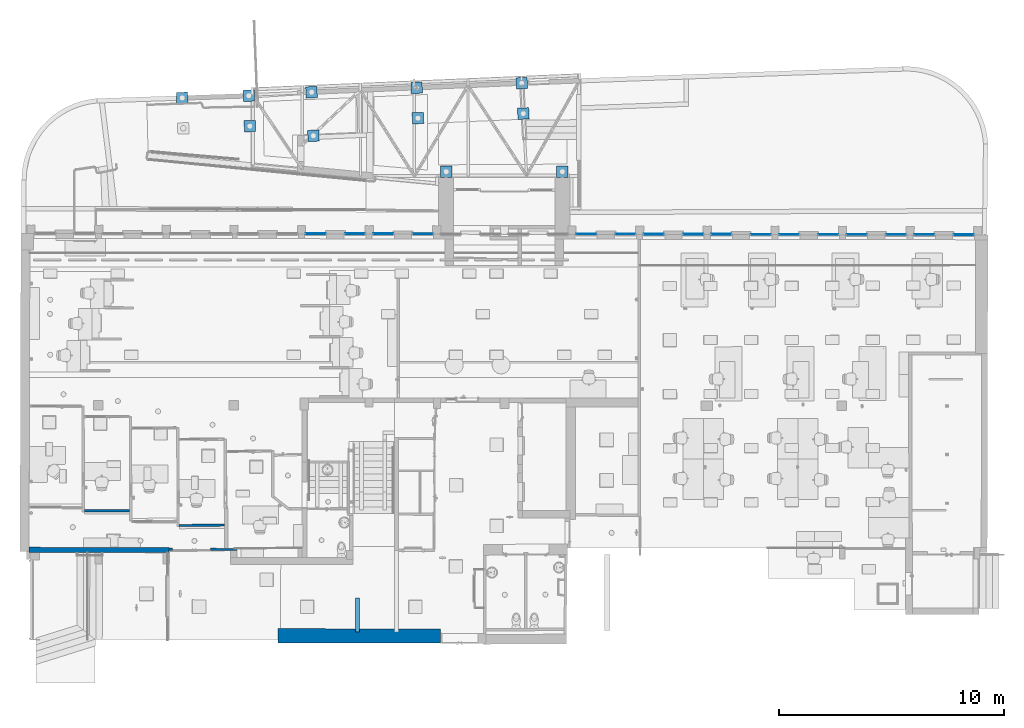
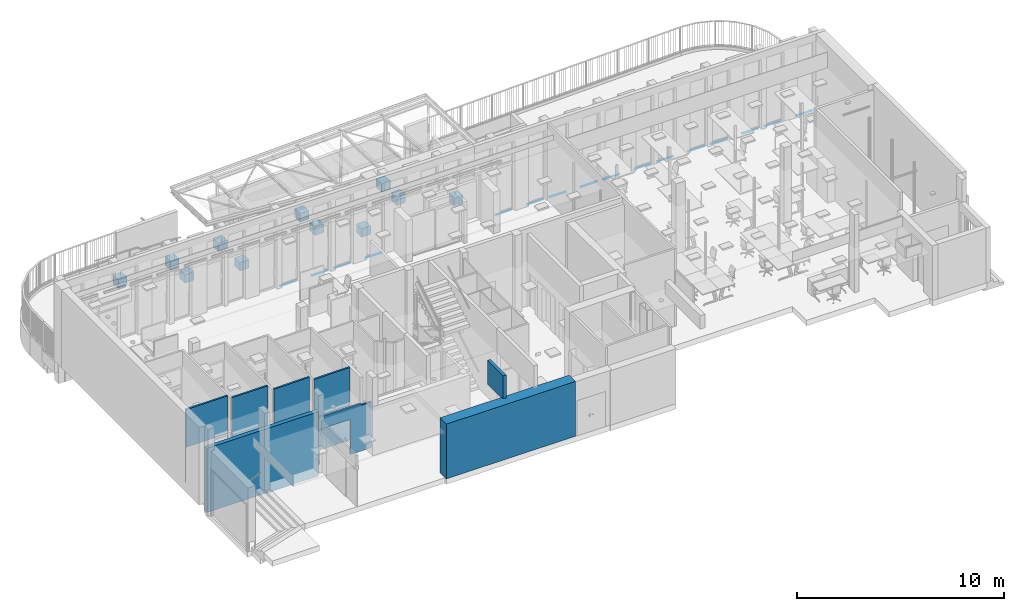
# One storey, part 25 of 128: 16 plates, 11 slabs, 8 walls, 3 openings, 16 elements without a shape of their own.
"""IFC2X3 building model written with IfcOpenShell, lengths in metres."""

import ifcopenshell
import ifcopenshell.guid

model = None  # the IFC model being written
_history = None  # IfcOwnerHistory: only IFC2X3 demands one
_inside = {}  # id of a spatial element -> (the spatial element, [elements in it])
_under = {}  # id of a project, library or spatial element -> (it, [spatial elements below it])
_declared = {}  # id of a project -> (the project, [libraries it declares])
_typed = {}  # id of a type object -> (the type object, [elements of that type])
_made_of = {}  # id of a material, layer set ... -> (it, [elements and type objects made of it])


def new_model(schema):
    """Start an empty IFC model of exactly this schema.

    Asked for "IFC4X3", IfcOpenShell would pick the latest addendum, in which some entities
    have other attributes; the version numbers below select the first issue.
    IFC2X3 requires an IfcOwnerHistory on every rooted entity: one is made here for all.
    """
    global model, _history
    if schema == "IFC4X3":
        model = ifcopenshell.file(schema_version=(4, 3, 0, 0))
    else:
        model = ifcopenshell.file(schema=schema)
    _inside.clear()
    _under.clear()
    _declared.clear()
    _typed.clear()
    _made_of.clear()
    _history = None
    if model.schema == "IFC2X3":
        org = make("IfcOrganization", Name="unknown")
        user = make(
            "IfcPersonAndOrganization",
            ThePerson=make("IfcPerson", FamilyName="unknown"),
            TheOrganization=org,
        )
        app = make(
            "IfcApplication",
            ApplicationDeveloper=org,
            Version="unknown",
            ApplicationFullName="unknown",
            ApplicationIdentifier="unknown",
        )
        _history = make(
            "IfcOwnerHistory",
            OwningUser=user,
            OwningApplication=app,
            ChangeAction="ADDED",
            CreationDate=0,
        )
    return model


def make(cls, **values):
    """One entity of the class cls with the attributes given. An attribute that is None is left unset."""
    return model.create_entity(
        cls, **{name: value for name, value in values.items() if value is not None}
    )


def entity(cls, *values):
    """Any entity or typed value of the class cls, its attributes in the order of the schema. None: left unset."""
    e = model.create_entity(cls)
    for i, value in enumerate(values):
        if value is not None:
            e[i] = value
    return e


def rooted(cls, **values):
    """An entity with a GlobalId (a new one), such as an element, a storey or a relation."""
    return make(cls, GlobalId=ifcopenshell.guid.new(), OwnerHistory=_history, **values)


def si_unit(unit_type, name, prefix=None):
    """IfcSIUnit, for example si_unit("LENGTHUNIT", "METRE", prefix="MILLI")."""
    return make("IfcSIUnit", UnitType=unit_type, Prefix=prefix, Name=name)


def converted_unit(unit_type, name, factor, base, dimensions=None, offset=None):
    """IfcConversionBasedUnit, such as the inch: factor (a typed value) times the base unit."""
    return make(
        "IfcConversionBasedUnit"
        if offset is None
        else "IfcConversionBasedUnitWithOffset",
        ConversionOffset=offset,
        Dimensions=None
        if dimensions is None
        else entity("IfcDimensionalExponents", *dimensions),
        UnitType=unit_type,
        Name=name,
        ConversionFactor=make(
            "IfcMeasureWithUnit", ValueComponent=factor, UnitComponent=base
        ),
    )


def derived_unit(unit_type, elements):
    """IfcDerivedUnit: a product of units, each with its exponent."""
    return make(
        "IfcDerivedUnit",
        Elements=[
            make("IfcDerivedUnitElement", Unit=unit, Exponent=power)
            for unit, power in elements
        ],
        UnitType=unit_type,
    )


def assignment(units):
    """IfcUnitAssignment: the units of a project."""
    return None if units is None else make("IfcUnitAssignment", Units=units)


def point(xyz):
    """IfcCartesianPoint."""
    return None if xyz is None else make("IfcCartesianPoint", Coordinates=xyz)


def direction(xyz):
    """IfcDirection."""
    return None if xyz is None else make("IfcDirection", DirectionRatios=xyz)


def frame(location, z_axis=None, x_axis=None):
    """IfcAxis2Placement3D, a coordinate frame: its origin and axes. An axis left out is left unset."""
    return make(
        "IfcAxis2Placement3D",
        Location=point(location),
        Axis=direction(z_axis),
        RefDirection=direction(x_axis),
    )


def frame_2d(location, x_axis=None):
    """IfcAxis2Placement2D, a coordinate frame in the plane: its origin and x axis."""
    return make(
        "IfcAxis2Placement2D", Location=point(location), RefDirection=direction(x_axis)
    )


def origin():
    """The frame at (0, 0, 0) with its axes left unset."""
    return frame((0.0, 0.0, 0.0))


def place(relative_to, where):
    """IfcLocalPlacement: puts the frame where relative to a parent placement (None: the world)."""
    return make(
        "IfcLocalPlacement", PlacementRelTo=relative_to, RelativePlacement=where
    )


def context(
    kind, dimensions, precision=None, world=None, true_north=None, identifier=None
):
    """IfcGeometricRepresentationContext, for example the 3D "Model" context."""
    return make(
        "IfcGeometricRepresentationContext",
        ContextIdentifier=identifier,
        ContextType=kind,
        CoordinateSpaceDimension=dimensions,
        Precision=precision,
        WorldCoordinateSystem=world,
        TrueNorth=true_north,
    )


def subcontext(parent, identifier, kind, view, scale=None):
    """IfcGeometricRepresentationSubContext, for example "Body" below "Model"."""
    return make(
        "IfcGeometricRepresentationSubContext",
        ContextIdentifier=identifier,
        ContextType=kind,
        ParentContext=parent,
        TargetScale=scale,
        TargetView=view,
    )


def project(units=None, contexts=None):
    """IfcProject with its units and contexts."""
    return rooted(
        "IfcProject",
        Name="project",
        RepresentationContexts=contexts,
        UnitsInContext=assignment(units),
    )


def spatial(cls, under=None, at=None, **own):
    """A site, building, storey or space (cls), placed at a placement, below another one or the project."""
    s = rooted(cls, ObjectPlacement=at, **own)
    if under is not None:
        _under.setdefault(under.id(), (under, []))[1].append(s)
    return s


def polyline(points):
    """IfcPolyline through the points."""
    return make("IfcPolyline", Points=[point(p) for p in points])


def profile(cls, at=None, kind="AREA", **sizes):
    """A parametric profile (cls). Its sizes go by their IFC names, for example OverallWidth=200.0."""
    return make(cls, ProfileType=kind, Position=at, **sizes)


def rectangle(**sizes):
    """IfcRectangleProfileDef."""
    return profile("IfcRectangleProfileDef", **sizes)


def outline(outer, holes=None, kind="AREA"):
    """IfcArbitraryClosedProfileDef: a profile drawn as a closed curve; with holes, ...WithVoids."""
    if holes is None:
        return make("IfcArbitraryClosedProfileDef", ProfileType=kind, OuterCurve=outer)
    return make(
        "IfcArbitraryProfileDefWithVoids",
        ProfileType=kind,
        OuterCurve=outer,
        InnerCurves=holes,
    )


def extrude(swept, where, along, depth):
    """IfcExtrudedAreaSolid: the profile swept, set in the frame where, extruded along a direction by depth."""
    return make(
        "IfcExtrudedAreaSolid",
        SweptArea=swept,
        Position=where,
        ExtrudedDirection=direction(along),
        Depth=depth,
    )


def clip(a, b, op="DIFFERENCE"):
    """IfcBooleanClippingResult: the solid a cut by the half space b."""
    return make(
        "IfcBooleanClippingResult", Operator=op, FirstOperand=a, SecondOperand=b
    )


def bounded_halfspace(plane, agree, where, boundary):
    """IfcPolygonalBoundedHalfSpace: a half space limited to a polygon's prism."""
    return make(
        "IfcPolygonalBoundedHalfSpace",
        BaseSurface=make("IfcPlane", Position=plane),
        AgreementFlag=agree,
        Position=where,
        PolygonalBoundary=boundary,
    )


def shape(context_of_items, identifier, shape_type, items):
    """IfcShapeRepresentation: the items that make up one representation, for example the "Body"."""
    return make(
        "IfcShapeRepresentation",
        ContextOfItems=context_of_items,
        RepresentationIdentifier=identifier,
        RepresentationType=shape_type,
        Items=items,
    )


def source(mapping_origin, context_of_items, identifier, shape_type, items):
    """IfcRepresentationMap: a shape defined once, which mapped items show again and again."""
    return make(
        "IfcRepresentationMap",
        MappingOrigin=mapping_origin,
        MappedRepresentation=shape(context_of_items, identifier, shape_type, items),
    )


def transform(
    local_origin,
    x_axis=None,
    y_axis=None,
    z_axis=None,
    scale=None,
    scale2=None,
    scale3=None,
    uniform=True,
):
    """IfcCartesianTransformationOperator3D, or its non-uniform kind. x_axis, y_axis, z_axis: its Axis1, 2, 3."""
    if uniform:
        return make(
            "IfcCartesianTransformationOperator3D",
            Axis1=direction(x_axis),
            Axis2=direction(y_axis),
            LocalOrigin=point(local_origin),
            Scale=scale,
            Axis3=direction(z_axis),
        )
    return make(
        "IfcCartesianTransformationOperator3DnonUniform",
        Axis1=direction(x_axis),
        Axis2=direction(y_axis),
        LocalOrigin=point(local_origin),
        Scale=scale,
        Axis3=direction(z_axis),
        Scale2=scale2,
        Scale3=scale3,
    )


def mapped(mapping_source, mapping_target):
    """IfcMappedItem: shows the shape of a source again, moved by a transform."""
    return make(
        "IfcMappedItem", MappingSource=mapping_source, MappingTarget=mapping_target
    )


def material(Name=None, Category=None):
    """IfcMaterial."""
    return make("IfcMaterial", Name=Name, Category=Category)


def layer(
    of_material, thickness, ventilated=None, Name=None, Category=None, Priority=None
):
    """IfcMaterialLayer: one layer of a wall or slab, of a material (None: an air gap)."""
    return make(
        "IfcMaterialLayer",
        Material=of_material,
        LayerThickness=thickness,
        IsVentilated=ventilated,
        Name=Name,
        Category=Category,
        Priority=Priority,
    )


def layer_set(layers, Name=None):
    """IfcMaterialLayerSet."""
    return make("IfcMaterialLayerSet", MaterialLayers=layers, LayerSetName=Name)


def layer_usage(for_layer_set, set_direction, sense, offset, extent=None):
    """IfcMaterialLayerSetUsage: how a layer set lies in its element."""
    return make(
        "IfcMaterialLayerSetUsage",
        ForLayerSet=for_layer_set,
        LayerSetDirection=set_direction,
        DirectionSense=sense,
        OffsetFromReferenceLine=offset,
        ReferenceExtent=extent,
    )


def made_of(thing, what):
    """Note that an element or type object is made of a material, layer set ...; save() writes the relation."""
    if what is not None:
        _made_of.setdefault(what.id(), (what, []))[1].append(thing)
    return thing


def type_object(cls, material=None, **own):
    """A type object (cls), such as IfcWallType, which elements share."""
    return made_of(rooted(cls, **own), material)


def type_shapes(of_type, sources):
    """Give a type object the sources (RepresentationMaps) that its elements show as mapped items."""
    of_type.RepresentationMaps = sources


def element(
    cls,
    number,
    at=None,
    inside=None,
    cuts=None,
    type_object=None,
    material=None,
    context=None,
    identifier="Body",
    shape_type=None,
    held_by="IfcProductDefinitionShape",
    body=None,
    shapes=None,
    **own,
):
    """One element of the class cls, such as IfcWall. Its Tag is "e" and its number.

    at: its placement. inside: the storey or other place that contains it. cuts: it is an
    opening in that element (IfcRelVoidsElement). A single representation is given by context,
    identifier, shape_type and body (its items); several are given by shapes. held_by: the class
    of the entity that holds the representations. save() writes the other relations.
    """
    e = rooted(cls, Tag="e%d" % number, ObjectPlacement=at, **own)
    if body is not None:
        shapes = [shape(context, identifier, shape_type, body)]
    if shapes is not None:
        e.Representation = make(held_by, Representations=shapes)
    if inside is not None:
        _inside.setdefault(inside.id(), (inside, []))[1].append(e)
    if cuts is not None:
        rooted(
            "IfcRelVoidsElement", RelatingBuildingElement=cuts, RelatedOpeningElement=e
        )
    if type_object is not None:
        _typed.setdefault(type_object.id(), (type_object, []))[1].append(e)
    return made_of(e, material)


def aggregate(whole, parts):
    """IfcRelAggregates: a whole, such as a stair, and the parts it consists of."""
    return rooted("IfcRelAggregates", RelatingObject=whole, RelatedObjects=parts)


def save(model, path):
    """Write the relations noted so far, then the file.

    IfcRelAggregates (storeys below a building ...), IfcRelContainedInSpatialStructure (elements
    in a storey), IfcRelDefinesByType, IfcRelAssociatesMaterial and IfcRelDeclares: one each for
    every whole, place, type object, material and project.
    """
    for whole, parts in _under.values():
        aggregate(whole, parts)
    for where, things in _inside.values():
        rooted(
            "IfcRelContainedInSpatialStructure",
            RelatedElements=things,
            RelatingStructure=where,
        )
    for kind, things in _typed.values():
        rooted("IfcRelDefinesByType", RelatedObjects=things, RelatingType=kind)
    for what, things in _made_of.values():
        rooted("IfcRelAssociatesMaterial", RelatedObjects=things, RelatingMaterial=what)
    for by, libraries in _declared.values():
        rooted("IfcRelDeclares", RelatingContext=by, RelatedDefinitions=libraries)
    model.write(path)


model = new_model("IFC2X3")

# Units and contexts
model_context = context("Model", 3, precision=1e-05, world=origin(), true_north=direction((6.123031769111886e-17, 1.0)))
body_context = subcontext(model_context, "Body", "Model", "MODEL_VIEW")
ifc_project = project(units=[si_unit("LENGTHUNIT", "METRE"), si_unit("AREAUNIT", "SQUARE_METRE"), converted_unit("PLANEANGLEUNIT", "DEGREE", entity("IfcPlaneAngleMeasure", 0.017453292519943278), si_unit("PLANEANGLEUNIT", "RADIAN"), dimensions=[0, 0, 0, 0, 0, 0, 0]), derived_unit("THERMALTRANSMITTANCEUNIT", [(si_unit("MASSUNIT", "GRAM", prefix="KILO"), 1), (si_unit("THERMODYNAMICTEMPERATUREUNIT", "KELVIN"), -1), (si_unit("TIMEUNIT", "SECOND"), -3)])], contexts=[model_context])

# Site, building, storey
site_placement = place(None, origin())
site = spatial("IfcSite", under=ifc_project, at=site_placement, Name="Default", CompositionType="ELEMENT")
building_placement = place(site_placement, origin())
building = spatial("IfcBuilding", under=site, at=building_placement, CompositionType="ELEMENT")
storey_placement = place(building_placement, origin())
storey = spatial("IfcBuildingStorey", under=building, at=storey_placement, Name="00_RDC CAF", CompositionType="ELEMENT", Elevation=2.4982504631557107e-13)

# Curtain wall, plate
curtain_wall_type = type_object("IfcCurtainWallType", Name="Mur-rideau:FRi.Ext.30mm Etages", PredefinedType="NOTDEFINED")
curtain_wall_1_placement = place(storey_placement, origin())
curtain_wall_1 = element("IfcCurtainWall", 1, at=curtain_wall_1_placement, inside=storey, type_object=curtain_wall_type, Name="Mur-rideau:FRi.Ext.30mm Etages", ObjectType="Mur-rideau:FRi.Ext.30mm Etages")
ifc_material_1 = material(Name="ARC - M.Ex - Bleu Foncé")
plate_type_1 = type_object("IfcPlateType", Name="Panneau système:F.Ri.P_Ext_Plein_30mm_Bleu foncé", PredefinedType="CURTAIN_PANEL", material=ifc_material_1)
shared_shape_1 = source(origin(), body_context, "Body", "SweptSolid", [
    extrude(rectangle(XDim=0.03, YDim=0.8800000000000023, at=frame_2d((0.0, 7.494005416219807e-16), x_axis=(1.0, 0.0))), frame((0.0, 0.0, 0.0), z_axis=(0.0, 0.0, 1.0), x_axis=(0.0, 1.0, 0.0)), (0.0, 0.0, 1.0), 0.01199999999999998),
])
type_shapes(plate_type_1, [shared_shape_1])
plate_1_placement = place(curtain_wall_1_placement, frame((31.37599304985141, 144.14482896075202, -0.062000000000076)))
plate_1 = element("IfcPlate", 2, at=plate_1_placement, type_object=plate_type_1, material=ifc_material_1, Name="Panneau système:F.Ri.P_Ext_Plein_30mm_Bleu foncé", ObjectType="Panneau système:F.Ri.P_Ext_Plein_30mm_Bleu foncé", context=body_context, shape_type="MappedRepresentation", body=[
    mapped(shared_shape_1, transform((0.0, 0.0, 0.0), scale=1.0)),
])
aggregate(curtain_wall_1, [plate_1])

curtain_wall_2_placement = place(storey_placement, origin())
curtain_wall_2 = element("IfcCurtainWall", 3, at=curtain_wall_2_placement, inside=storey, type_object=curtain_wall_type, Name="Mur-rideau:FRi.Ext.30mm Etages", ObjectType="Mur-rideau:FRi.Ext.30mm Etages")
plate_2_placement = place(curtain_wall_2_placement, frame((34.37598641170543, 144.14011088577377, -0.062000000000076)))
plate_2 = element("IfcPlate", 4, at=plate_2_placement, type_object=plate_type_1, material=ifc_material_1, Name="Panneau système:F.Ri.P_Ext_Plein_30mm_Bleu foncé", ObjectType="Panneau système:F.Ri.P_Ext_Plein_30mm_Bleu foncé", context=body_context, shape_type="MappedRepresentation", body=[
    mapped(shared_shape_1, transform((0.0, 0.0, 0.0), scale=1.0)),
])
aggregate(curtain_wall_2, [plate_2])

curtain_wall_3_placement = place(storey_placement, origin())
curtain_wall_3 = element("IfcCurtainWall", 5, at=curtain_wall_3_placement, inside=storey, type_object=curtain_wall_type, Name="Mur-rideau:FRi.Ext.30mm Etages", ObjectType="Mur-rideau:FRi.Ext.30mm Etages")
plate_3_placement = place(curtain_wall_3_placement, frame((37.37597977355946, 144.13539281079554, -0.062000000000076)))
plate_3 = element("IfcPlate", 6, at=plate_3_placement, type_object=plate_type_1, material=ifc_material_1, Name="Panneau système:F.Ri.P_Ext_Plein_30mm_Bleu foncé", ObjectType="Panneau système:F.Ri.P_Ext_Plein_30mm_Bleu foncé", context=body_context, shape_type="MappedRepresentation", body=[
    mapped(shared_shape_1, transform((0.0, 0.0, 0.0), scale=1.0)),
])
aggregate(curtain_wall_3, [plate_3])

curtain_wall_4_placement = place(storey_placement, origin())
curtain_wall_4 = element("IfcCurtainWall", 7, at=curtain_wall_4_placement, inside=storey, type_object=curtain_wall_type, Name="Mur-rideau:FRi.Ext.30mm Etages", ObjectType="Mur-rideau:FRi.Ext.30mm Etages")
plate_4_placement = place(curtain_wall_4_placement, frame((40.37597313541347, 144.13067473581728, -0.062000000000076)))
plate_4 = element("IfcPlate", 8, at=plate_4_placement, type_object=plate_type_1, material=ifc_material_1, Name="Panneau système:F.Ri.P_Ext_Plein_30mm_Bleu foncé", ObjectType="Panneau système:F.Ri.P_Ext_Plein_30mm_Bleu foncé", context=body_context, shape_type="MappedRepresentation", body=[
    mapped(shared_shape_1, transform((0.0, 0.0, 0.0), scale=1.0)),
])
aggregate(curtain_wall_4, [plate_4])

curtain_wall_5_placement = place(storey_placement, origin())
curtain_wall_5 = element("IfcCurtainWall", 9, at=curtain_wall_5_placement, inside=storey, type_object=curtain_wall_type, Name="Mur-rideau:FRi.Ext.30mm Etages", ObjectType="Mur-rideau:FRi.Ext.30mm Etages")
plate_5_placement = place(curtain_wall_5_placement, frame((43.37596649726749, 144.12595666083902, -0.062000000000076)))
plate_5 = element("IfcPlate", 10, at=plate_5_placement, type_object=plate_type_1, material=ifc_material_1, Name="Panneau système:F.Ri.P_Ext_Plein_30mm_Bleu foncé", ObjectType="Panneau système:F.Ri.P_Ext_Plein_30mm_Bleu foncé", context=body_context, shape_type="MappedRepresentation", body=[
    mapped(shared_shape_1, transform((0.0, 0.0, 0.0), scale=1.0)),
])
aggregate(curtain_wall_5, [plate_5])

curtain_wall_6_placement = place(storey_placement, origin())
curtain_wall_6 = element("IfcCurtainWall", 11, at=curtain_wall_6_placement, inside=storey, type_object=curtain_wall_type, Name="Mur-rideau:FRi.Ext.30mm Etages", ObjectType="Mur-rideau:FRi.Ext.30mm Etages")
plate_6_placement = place(curtain_wall_6_placement, frame((46.37595985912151, 144.12123858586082, -0.062000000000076)))
plate_6 = element("IfcPlate", 12, at=plate_6_placement, type_object=plate_type_1, material=ifc_material_1, Name="Panneau système:F.Ri.P_Ext_Plein_30mm_Bleu foncé", ObjectType="Panneau système:F.Ri.P_Ext_Plein_30mm_Bleu foncé", context=body_context, shape_type="MappedRepresentation", body=[
    mapped(shared_shape_1, transform((0.0, 0.0, 0.0), scale=1.0)),
])
aggregate(curtain_wall_6, [plate_6])

curtain_wall_7_placement = place(storey_placement, origin())
curtain_wall_7 = element("IfcCurtainWall", 13, at=curtain_wall_7_placement, inside=storey, type_object=curtain_wall_type, Name="Mur-rideau:FRi.Ext.30mm Etages", ObjectType="Mur-rideau:FRi.Ext.30mm Etages")
plate_7_placement = place(curtain_wall_7_placement, frame((19.37601960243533, 144.16370126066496, -0.062000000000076)))
plate_7 = element("IfcPlate", 14, at=plate_7_placement, type_object=plate_type_1, material=ifc_material_1, Name="Panneau système:F.Ri.P_Ext_Plein_30mm_Bleu foncé", ObjectType="Panneau système:F.Ri.P_Ext_Plein_30mm_Bleu foncé", context=body_context, shape_type="MappedRepresentation", body=[
    mapped(shared_shape_1, transform((0.0, 0.0, 0.0), scale=1.0)),
])
aggregate(curtain_wall_7, [plate_7])

curtain_wall_8_placement = place(storey_placement, origin())
curtain_wall_8 = element("IfcCurtainWall", 15, at=curtain_wall_8_placement, inside=storey, type_object=curtain_wall_type, Name="Mur-rideau:FRi.Ext.30mm Etages", ObjectType="Mur-rideau:FRi.Ext.30mm Etages")
plate_8_placement = place(curtain_wall_8_placement, frame((22.37601296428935, 144.15898318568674, -0.062000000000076)))
plate_8 = element("IfcPlate", 16, at=plate_8_placement, type_object=plate_type_1, material=ifc_material_1, Name="Panneau système:F.Ri.P_Ext_Plein_30mm_Bleu foncé", ObjectType="Panneau système:F.Ri.P_Ext_Plein_30mm_Bleu foncé", context=body_context, shape_type="MappedRepresentation", body=[
    mapped(shared_shape_1, transform((0.0, 0.0, 0.0), scale=1.0)),
])
aggregate(curtain_wall_8, [plate_8])

curtain_wall_9_placement = place(storey_placement, origin())
curtain_wall_9 = element("IfcCurtainWall", 17, at=curtain_wall_9_placement, inside=storey, type_object=curtain_wall_type, Name="Mur-rideau:FRi.Ext.30mm Etages", ObjectType="Mur-rideau:FRi.Ext.30mm Etages")
plate_type_2 = type_object("IfcPlateType", Name="Panneau système:F.Ri.P_Ext_Plein_30mm_Bleu foncé", PredefinedType="CURTAIN_PANEL", material=ifc_material_1)
shared_shape_2 = source(origin(), body_context, "Body", "SweptSolid", [
    extrude(rectangle(XDim=0.03, YDim=0.8800000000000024, at=frame_2d((0.0, 6.661338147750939e-16), x_axis=(1.0, 0.0))), frame((0.0, 0.0, 0.0), z_axis=(0.0, 0.0, 1.0), x_axis=(0.0, 1.0, 0.0)), (0.0, 0.0, 1.0), 0.01199999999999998),
])
type_shapes(plate_type_2, [shared_shape_2])
plate_9_placement = place(curtain_wall_9_placement, frame((33.12233913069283, 144.14208249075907, -0.062000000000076), z_axis=(0.0, 0.0, 1.0), x_axis=(-1.0, 0.0, 0.0)))
plate_9 = element("IfcPlate", 18, at=plate_9_placement, type_object=plate_type_2, material=ifc_material_1, Name="Panneau système:F.Ri.P_Ext_Plein_30mm_Bleu foncé", ObjectType="Panneau système:F.Ri.P_Ext_Plein_30mm_Bleu foncé", context=body_context, shape_type="MappedRepresentation", body=[
    mapped(shared_shape_2, transform((0.0, 0.0, 0.0), scale=1.0)),
])
aggregate(curtain_wall_9, [plate_9])

curtain_wall_10_placement = place(storey_placement, origin())
curtain_wall_10 = element("IfcCurtainWall", 19, at=curtain_wall_10_placement, inside=storey, type_object=curtain_wall_type, Name="Mur-rideau:FRi.Ext.30mm Etages", ObjectType="Mur-rideau:FRi.Ext.30mm Etages")
plate_10_placement = place(curtain_wall_10_placement, frame((36.122332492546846, 144.13736441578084, -0.062000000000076), z_axis=(0.0, 0.0, 1.0), x_axis=(-1.0, 0.0, 0.0)))
plate_10 = element("IfcPlate", 20, at=plate_10_placement, type_object=plate_type_2, material=ifc_material_1, Name="Panneau système:F.Ri.P_Ext_Plein_30mm_Bleu foncé", ObjectType="Panneau système:F.Ri.P_Ext_Plein_30mm_Bleu foncé", context=body_context, shape_type="MappedRepresentation", body=[
    mapped(shared_shape_2, transform((0.0, 0.0, 0.0), scale=1.0)),
])
aggregate(curtain_wall_10, [plate_10])

curtain_wall_11_placement = place(storey_placement, origin())
curtain_wall_11 = element("IfcCurtainWall", 21, at=curtain_wall_11_placement, inside=storey, type_object=curtain_wall_type, Name="Mur-rideau:FRi.Ext.30mm Etages", ObjectType="Mur-rideau:FRi.Ext.30mm Etages")
plate_11_placement = place(curtain_wall_11_placement, frame((39.12232585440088, 144.1326463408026, -0.062000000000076), z_axis=(0.0, 0.0, 1.0), x_axis=(-1.0, 0.0, 0.0)))
plate_11 = element("IfcPlate", 22, at=plate_11_placement, type_object=plate_type_2, material=ifc_material_1, Name="Panneau système:F.Ri.P_Ext_Plein_30mm_Bleu foncé", ObjectType="Panneau système:F.Ri.P_Ext_Plein_30mm_Bleu foncé", context=body_context, shape_type="MappedRepresentation", body=[
    mapped(shared_shape_2, transform((0.0, 0.0, 0.0), scale=1.0)),
])
aggregate(curtain_wall_11, [plate_11])

curtain_wall_12_placement = place(storey_placement, origin())
curtain_wall_12 = element("IfcCurtainWall", 23, at=curtain_wall_12_placement, inside=storey, type_object=curtain_wall_type, Name="Mur-rideau:FRi.Ext.30mm Etages", ObjectType="Mur-rideau:FRi.Ext.30mm Etages")
plate_12_placement = place(curtain_wall_12_placement, frame((42.12231921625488, 144.12792826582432, -0.062000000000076), z_axis=(0.0, 0.0, 1.0), x_axis=(-1.0, 0.0, 0.0)))
plate_12 = element("IfcPlate", 24, at=plate_12_placement, type_object=plate_type_2, material=ifc_material_1, Name="Panneau système:F.Ri.P_Ext_Plein_30mm_Bleu foncé", ObjectType="Panneau système:F.Ri.P_Ext_Plein_30mm_Bleu foncé", context=body_context, shape_type="MappedRepresentation", body=[
    mapped(shared_shape_2, transform((0.0, 0.0, 0.0), scale=1.0)),
])
aggregate(curtain_wall_12, [plate_12])

curtain_wall_13_placement = place(storey_placement, origin())
curtain_wall_13 = element("IfcCurtainWall", 25, at=curtain_wall_13_placement, inside=storey, type_object=curtain_wall_type, Name="Mur-rideau:FRi.Ext.30mm Etages", ObjectType="Mur-rideau:FRi.Ext.30mm Etages")
plate_13_placement = place(curtain_wall_13_placement, frame((45.122312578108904, 144.1232101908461, -0.062000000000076), z_axis=(0.0, 0.0, 1.0), x_axis=(-1.0, 0.0, 0.0)))
plate_13 = element("IfcPlate", 26, at=plate_13_placement, type_object=plate_type_2, material=ifc_material_1, Name="Panneau système:F.Ri.P_Ext_Plein_30mm_Bleu foncé", ObjectType="Panneau système:F.Ri.P_Ext_Plein_30mm_Bleu foncé", context=body_context, shape_type="MappedRepresentation", body=[
    mapped(shared_shape_2, transform((0.0, 0.0, 0.0), scale=1.0)),
])
aggregate(curtain_wall_13, [plate_13])

curtain_wall_14_placement = place(storey_placement, origin())
curtain_wall_14 = element("IfcCurtainWall", 27, at=curtain_wall_14_placement, inside=storey, type_object=curtain_wall_type, Name="Mur-rideau:FRi.Ext.30mm Etages", ObjectType="Mur-rideau:FRi.Ext.30mm Etages")
plate_14_placement = place(curtain_wall_14_placement, frame((48.12230593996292, 144.11849211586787, -0.062000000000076), z_axis=(0.0, 0.0, 1.0), x_axis=(-1.0, 0.0, 0.0)))
plate_14 = element("IfcPlate", 28, at=plate_14_placement, type_object=plate_type_2, material=ifc_material_1, Name="Panneau système:F.Ri.P_Ext_Plein_30mm_Bleu foncé", ObjectType="Panneau système:F.Ri.P_Ext_Plein_30mm_Bleu foncé", context=body_context, shape_type="MappedRepresentation", body=[
    mapped(shared_shape_2, transform((0.0, 0.0, 0.0), scale=1.0)),
])
aggregate(curtain_wall_14, [plate_14])

curtain_wall_15_placement = place(storey_placement, origin())
curtain_wall_15 = element("IfcCurtainWall", 29, at=curtain_wall_15_placement, inside=storey, type_object=curtain_wall_type, Name="Mur-rideau:FRi.Ext.30mm Etages", ObjectType="Mur-rideau:FRi.Ext.30mm Etages")
plate_15_placement = place(curtain_wall_15_placement, frame((21.122365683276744, 144.160954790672, -0.062000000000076), z_axis=(0.0, 0.0, 1.0), x_axis=(-1.0, 0.0, 0.0)))
plate_15 = element("IfcPlate", 30, at=plate_15_placement, type_object=plate_type_2, material=ifc_material_1, Name="Panneau système:F.Ri.P_Ext_Plein_30mm_Bleu foncé", ObjectType="Panneau système:F.Ri.P_Ext_Plein_30mm_Bleu foncé", context=body_context, shape_type="MappedRepresentation", body=[
    mapped(shared_shape_2, transform((0.0, 0.0, 0.0), scale=1.0)),
])
aggregate(curtain_wall_15, [plate_15])

curtain_wall_16_placement = place(storey_placement, origin())
curtain_wall_16 = element("IfcCurtainWall", 31, at=curtain_wall_16_placement, inside=storey, type_object=curtain_wall_type, Name="Mur-rideau:FRi.Ext.30mm Etages", ObjectType="Mur-rideau:FRi.Ext.30mm Etages")
plate_16_placement = place(curtain_wall_16_placement, frame((24.122359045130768, 144.1562367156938, -0.062000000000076), z_axis=(0.0, 0.0, 1.0), x_axis=(-1.0, 0.0, 0.0)))
plate_16 = element("IfcPlate", 32, at=plate_16_placement, type_object=plate_type_2, material=ifc_material_1, Name="Panneau système:F.Ri.P_Ext_Plein_30mm_Bleu foncé", ObjectType="Panneau système:F.Ri.P_Ext_Plein_30mm_Bleu foncé", context=body_context, shape_type="MappedRepresentation", body=[
    mapped(shared_shape_2, transform((0.0, 0.0, 0.0), scale=1.0)),
])
aggregate(curtain_wall_16, [plate_16])

# Slabs
ifc_material_2 = material(Name="Béton - Béton coulé sur place")
slab_type = type_object("IfcSlabType", Name="Casque de battage-1 poteau:TP 500x500x500 - Pieux 250", PredefinedType="BASESLAB", material=ifc_material_2)
slab_1_placement = place(storey_placement, origin())
element("IfcSlab", 33, at=slab_1_placement, inside=storey, type_object=slab_type, Name="Casque de battage-1 poteau:TP 500x500x500 - Pieux 250", ObjectType="Casque de battage-1 poteau:TP 500x500x500 - Pieux 250", PredefinedType="BASESLAB", context=body_context, shape_type="SweptSolid", body=[
    extrude(rectangle(XDim=0.49999999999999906, YDim=0.5000000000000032, at=frame_2d((9.159339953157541e-16, 1.7305601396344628e-14), x_axis=(1.0, 0.0))), frame((28.59051658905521, 149.4910029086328, -1.6960293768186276), z_axis=(0.0, 0.0, 1.0), x_axis=(-0.9986305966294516, -0.052315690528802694, 0.0)), (0.0, 0.0, 1.0), 0.4999999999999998),
])
slab_2_placement = place(storey_placement, origin())
element("IfcSlab", 34, at=slab_2_placement, inside=storey, type_object=slab_type, Name="Casque de battage-1 poteau:TP 500x500x500 - Pieux 250", ObjectType="Casque de battage-1 poteau:TP 500x500x500 - Pieux 250", PredefinedType="BASESLAB", context=body_context, shape_type="SweptSolid", body=[
    extrude(rectangle(XDim=0.499999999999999, YDim=0.5000000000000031, at=frame_2d((4.3298697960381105e-15, -2.498001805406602e-16), x_axis=(1.0, 0.0))), frame((28.519886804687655, 150.83922297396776, -1.6960293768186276), z_axis=(0.0, 0.0, 1.0), x_axis=(-0.9986305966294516, -0.052315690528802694, 0.0)), (0.0, 0.0, 1.0), 0.4999999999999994),
])
slab_3_placement = place(storey_placement, origin())
element("IfcSlab", 35, at=slab_3_placement, inside=storey, type_object=slab_type, Name="Casque de battage-1 poteau:TP 500x500x500 - Pieux 250", ObjectType="Casque de battage-1 poteau:TP 500x500x500 - Pieux 250", PredefinedType="BASESLAB", context=body_context, shape_type="SweptSolid", body=[
    extrude(rectangle(XDim=0.499999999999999, YDim=0.5000000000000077, at=frame_2d((-2.1788126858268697e-15, 8.673617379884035e-15), x_axis=(1.0, 0.0))), frame((30.3207250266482, 146.91596943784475, -0.7999999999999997), z_axis=(0.0, 0.0, 1.0), x_axis=(-1.0, 0.0, 0.0)), (0.0, 0.0, 1.0), 0.4999999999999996),
])
slab_4_placement = place(storey_placement, origin())
element("IfcSlab", 36, at=slab_4_placement, inside=storey, type_object=slab_type, Name="Casque de battage-1 poteau:TP 500x500x500 - Pieux 250", ObjectType="Casque de battage-1 poteau:TP 500x500x500 - Pieux 250", PredefinedType="BASESLAB", context=body_context, shape_type="SweptSolid", body=[
    extrude(rectangle(XDim=0.49999999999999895, YDim=0.5000000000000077, at=frame_2d((2.1788126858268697e-15, 8.673617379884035e-15), x_axis=(1.0, 0.0))), frame((25.16802002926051, 146.91596943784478, -0.7999999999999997), z_axis=(0.0, 0.0, 1.0), x_axis=(-1.0, 0.0, 0.0)), (0.0, 0.0, 1.0), 0.4999999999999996),
])
slab_5_placement = place(storey_placement, origin())
element("IfcSlab", 37, at=slab_5_placement, inside=storey, type_object=slab_type, Name="Casque de battage-1 poteau:TP 500x500x500 - Pieux 250", ObjectType="Casque de battage-1 poteau:TP 500x500x500 - Pieux 250", PredefinedType="BASESLAB", context=body_context, shape_type="SweptSolid", body=[
    extrude(rectangle(XDim=0.5000000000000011, YDim=0.5000000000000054, at=frame_2d((-2.1510571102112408e-15, 1.1102230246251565e-16), x_axis=(1.0, 0.0))), frame((23.915028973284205, 149.2893019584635, -1.6960293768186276), z_axis=(0.0, 0.0, 1.0), x_axis=(-0.9990706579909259, -0.043102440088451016, 0.0)), (0.0, 0.0, 1.0), 0.4999999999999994),
])
slab_6_placement = place(storey_placement, origin())
element("IfcSlab", 38, at=slab_6_placement, inside=storey, type_object=slab_type, Name="Casque de battage-1 poteau:TP 500x500x500 - Pieux 250", ObjectType="Casque de battage-1 poteau:TP 500x500x500 - Pieux 250", PredefinedType="BASESLAB", context=body_context, shape_type="SweptSolid", body=[
    extrude(rectangle(XDim=0.5000000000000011, YDim=0.5000000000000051, at=frame_2d((-1.0824674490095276e-15, 2.7755575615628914e-17), x_axis=(1.0, 0.0))), frame((19.193791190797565, 150.4368715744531, -1.6960293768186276), z_axis=(0.0, 0.0, 1.0), x_axis=(-0.9990706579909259, -0.043102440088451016, 0.0)), (0.0, 0.0, 1.0), 0.4999999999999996),
])
slab_7_placement = place(storey_placement, origin())
element("IfcSlab", 39, at=slab_7_placement, inside=storey, type_object=slab_type, Name="Casque de battage-1 poteau:TP 500x500x500 - Pieux 250", ObjectType="Casque de battage-1 poteau:TP 500x500x500 - Pieux 250", PredefinedType="BASESLAB", context=body_context, shape_type="SweptSolid", body=[
    extrude(rectangle(XDim=0.5000000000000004, YDim=0.5000000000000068, at=frame_2d((2.1649348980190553e-15, -1.1102230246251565e-16), x_axis=(1.0, 0.0))), frame((13.457110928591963, 150.18491970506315, -1.6960293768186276), z_axis=(0.0, 0.0, 1.0), x_axis=(-0.9994329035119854, -0.03367300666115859, 0.0)), (0.0, 0.0, 1.0), 0.4999999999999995),
])
slab_8_placement = place(storey_placement, origin())
element("IfcSlab", 40, at=slab_8_placement, inside=storey, type_object=slab_type, Name="Casque de battage-1 poteau:TP 500x500x500 - Pieux 250", ObjectType="Casque de battage-1 poteau:TP 500x500x500 - Pieux 250", PredefinedType="BASESLAB", context=body_context, shape_type="SweptSolid", body=[
    extrude(rectangle(XDim=0.4999999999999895, YDim=0.5000000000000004, at=frame_2d((2.7755575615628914e-17, 1.0824674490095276e-15), x_axis=(1.0, 0.0))), frame((16.458270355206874, 148.93526909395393, -1.6839951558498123), z_axis=(0.0, 0.0, 1.0), x_axis=(0.03367300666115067, -0.9994329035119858, 0.0)), (0.0, 0.0, 1.0), 0.4999999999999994),
])
slab_9_placement = place(storey_placement, origin())
element("IfcSlab", 41, at=slab_9_placement, inside=storey, type_object=slab_type, Name="Casque de battage-1 poteau:TP 500x500x500 - Pieux 250", ObjectType="Casque de battage-1 poteau:TP 500x500x500 - Pieux 250", PredefinedType="BASESLAB", context=body_context, shape_type="SweptSolid", body=[
    extrude(rectangle(XDim=0.49999999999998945, YDim=0.5000000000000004, at=frame_2d((-2.7755575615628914e-17, -1.0824674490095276e-15), x_axis=(1.0, 0.0))), frame((16.412811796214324, 150.2845035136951, -1.6960293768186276), z_axis=(0.0, 0.0, 1.0), x_axis=(0.03367300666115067, -0.9994329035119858, 0.0)), (0.0, 0.0, 1.0), 0.4999999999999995),
])
slab_10_placement = place(storey_placement, origin())
element("IfcSlab", 42, at=slab_10_placement, inside=storey, type_object=slab_type, Name="Casque de battage-1 poteau:TP 500x500x500 - Pieux 250", ObjectType="Casque de battage-1 poteau:TP 500x500x500 - Pieux 250", PredefinedType="BASESLAB", context=body_context, shape_type="SweptSolid", body=[
    extrude(rectangle(XDim=0.5000000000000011, YDim=0.5000000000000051, at=frame_2d((-2.1649348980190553e-15, 8.326672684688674e-17), x_axis=(1.0, 0.0))), frame((23.856848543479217, 150.63786505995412, -1.6960293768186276), z_axis=(0.0, 0.0, 1.0), x_axis=(-0.9990706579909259, -0.043102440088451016, 0.0)), (0.0, 0.0, 1.0), 0.4999999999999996),
])
slab_11_placement = place(storey_placement, origin())
element("IfcSlab", 43, at=slab_11_placement, inside=storey, type_object=slab_type, Name="Casque de battage-1 poteau:TP 500x500x500 - Pieux 250", ObjectType="Casque de battage-1 poteau:TP 500x500x500 - Pieux 250", PredefinedType="BASESLAB", context=body_context, shape_type="SweptSolid", body=[
    extrude(rectangle(XDim=0.5000000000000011, YDim=0.5000000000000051, at=frame_2d((1.0824674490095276e-15, -2.7755575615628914e-17), x_axis=(1.0, 0.0))), frame((19.277328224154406, 148.50706814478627, -1.6960293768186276), z_axis=(0.0, 0.0, 1.0), x_axis=(-0.9990706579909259, -0.043102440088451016, 0.0)), (0.0, 0.0, 1.0), 0.4999999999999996),
])

# Wall, opening
ifc_material_3 = material(Name="ARC - Cloison")
ifc_layer_1 = layer(ifc_material_3, 0.1)
ifc_layer_set_1 = layer_set([ifc_layer_1], Name="Mur de base:Cl_Platre_100mm")
ifc_layer_usage_1 = layer_usage(ifc_layer_set_1, "AXIS2", "NEGATIVE", 0.05)
wall_type_1 = type_object("IfcWallType", Name="Mur de base:Cl_Platre_100mm", PredefinedType="STANDARD", material=ifc_layer_set_1)
wall_1_placement = place(storey_placement, frame((12.877483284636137, 130.1637382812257, 0.0), z_axis=(0.0, 0.0, 1.0), x_axis=(0.9999964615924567, -0.0026602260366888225, 0.0)))
wall_1 = element("IfcWallStandardCase", 44, at=wall_1_placement, inside=storey, type_object=wall_type_1, material=ifc_layer_usage_1, Name="Mur de base:Cl_Platre_100mm", ObjectType="Mur de base:Cl_Platre_100mm", context=body_context, shape_type="Clipping", body=[
    clip(clip(clip(clip(clip(extrude(rectangle(XDim=0.10000000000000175, YDim=3.017920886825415, at=frame_2d((1.5089604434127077, -9.46465128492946e-15), x_axis=(0.0, 1.0))), origin(), (0.0, 0.0, 1.0), 2.786642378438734), bounded_halfspace(frame((2.979851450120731, -0.05000000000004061, 2.700000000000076), z_axis=(0.0, 0.0, -1.0), x_axis=(-0.9999964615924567, -0.002660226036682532, 0.0)), True, frame((2.979851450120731, -0.05000000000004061, 2.700000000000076)), polyline([(0.0, 0.0), (0.03806943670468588, 0.0), (0.0380694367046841, 0.10000000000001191), (-0.0002660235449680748, 0.10000000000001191), (0.0, 0.0)]))), bounded_halfspace(frame((0.020280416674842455, -0.05000000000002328, 2.777642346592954), z_axis=(-0.00023845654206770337, 0.08963738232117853, -0.9959744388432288), x_axis=(0.002649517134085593, -0.9959709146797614, -0.0896376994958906)), True, frame((0.020280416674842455, -0.05000000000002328, 2.777642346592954)), polyline([(0.0, 0.0), (2.429058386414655, 0.0), (2.428530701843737, 0.10000000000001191), (-0.0002660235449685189, 0.0999999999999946), (0.0, 0.0)]))), bounded_halfspace(frame((2.979851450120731, -0.05000000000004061, 2.700000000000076), z_axis=(0.0, 0.0, -1.0), x_axis=(-0.9999964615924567, -0.002660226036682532, 0.0)), True, frame((2.979851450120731, -0.05000000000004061, 2.700000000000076)), polyline([(0.0, 0.0), (0.03806943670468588, 0.0), (0.0380694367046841, 0.10000000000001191), (-0.0002660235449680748, 0.10000000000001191), (0.0, 0.0)]))), bounded_halfspace(frame((2.449338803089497, -0.05000000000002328, 2.6999999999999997), z_axis=(0.0, 0.0, 1.0), x_axis=(0.0, 1.0, 0.0)), False, frame((2.449338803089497, -0.05000000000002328, 2.6999999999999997)), polyline([(0.0, 0.0), (0.5305126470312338, 0.0), (0.5302466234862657, 0.0999999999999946), (-0.0005276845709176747, 0.10000000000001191), (0.0, 0.0)]))), bounded_halfspace(frame((0.0, 0.04999999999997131, 2.7), z_axis=(0.0, 0.0, 1.0), x_axis=(0.0, 1.0, 0.0)), False, frame((0.0, 0.04999999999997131, 2.7)), polyline([(0.0, 0.0), (0.0, -0.0999999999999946), (0.02028041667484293, -0.0999999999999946), (0.020014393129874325, 0.0), (0.0, 0.0)]))),
])
opening_1_placement = place(wall_1_placement, frame((1.8424932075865, 0.050000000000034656, 0.0)))
element("IfcOpeningElement", 45, at=opening_1_placement, cuts=wall_1, Name="P_Tunnel_Tierce:P_Int_Tierce_Pleine_1620x2040mm:1", ObjectType="Opening", context=body_context, shape_type="SweptSolid", body=[
    extrude(rectangle(XDim=2.0749999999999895, YDim=1.6899999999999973, at=frame_2d((1.0374999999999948, 0.845), x_axis=(1.0, 0.0))), frame((0.0, 0.0, 0.0), z_axis=(0.0, -1.0, 0.0), x_axis=(0.0, 0.0, 1.0)), (0.0, 0.0, 1.0), 0.1),
])

ifc_layer_usage_2 = layer_usage(ifc_layer_set_1, "AXIS2", "NEGATIVE", 0.05)
wall_2_placement = place(storey_placement, frame((6.666494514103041, 132.11264719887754, 0.0)))
wall_2 = element("IfcWallStandardCase", 46, at=wall_2_placement, inside=storey, type_object=wall_type_1, material=ifc_layer_usage_2, Name="Mur de base:Cl_Platre_100mm", ObjectType="Mur de base:Cl_Platre_100mm", context=body_context, shape_type="SweptSolid", body=[
    extrude(outline(polyline([(0.0, -0.04999999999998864), (2.3540878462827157, -0.04999999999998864), (2.3538145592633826, 0.050000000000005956), (0.0002898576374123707, 0.050000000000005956), (0.0, -0.04999999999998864)])), origin(), (0.0, 0.0, 1.0), 4.278),
])
opening_2_placement = place(wall_2_placement, origin())
element("IfcOpeningElement", 47, at=opening_2_placement, cuts=wall_2, Name="Mur de base:Cl_Platre_100mm", ObjectType="Opening", context=body_context, shape_type="SweptSolid", body=[
    extrude(rectangle(XDim=2.052499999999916, YDim=2.3528138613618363, at=frame_2d((0.0, 5.551115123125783e-16), x_axis=(1.0, 0.0))), frame((1.176864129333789, -0.20239999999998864, 1.026249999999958), z_axis=(0.0, 1.0, 0.0), x_axis=(0.0, 0.0, 1.0)), (0.0, 0.0, 1.0), 0.4047999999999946),
])

# Wall
ifc_layer_usage_3 = layer_usage(ifc_layer_set_1, "AXIS2", "NEGATIVE", 0.05)
wall_3_placement = place(storey_placement, frame((9.120862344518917, 131.87598327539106, 0.0), z_axis=(0.0, 0.0, 1.0), x_axis=(0.9999982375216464, -0.0018774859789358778, 0.0)))
element("IfcWallStandardCase", 48, at=wall_3_placement, inside=storey, type_object=wall_type_1, material=ifc_layer_usage_3, Name="Mur de base:Cl_Platre_100mm", ObjectType="Mur de base:Cl_Platre_100mm", context=body_context, shape_type="SweptSolid", body=[
    extrude(outline(polyline([(2.001968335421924, -0.04999999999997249), (2.001507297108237, 0.05000000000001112), (0.0, 0.05000000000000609), (0.0004610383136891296, -0.04999999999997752), (2.001968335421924, -0.04999999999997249)])), origin(), (0.0, 0.0, 1.0), 4.278),
])

# Wall, opening
ifc_layer_usage_4 = layer_usage(ifc_layer_set_1, "AXIS2", "NEGATIVE", 0.05)
wall_4_placement = place(storey_placement, frame((11.223327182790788, 131.4761831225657, 0.0), z_axis=(0.0, 0.0, 1.0), x_axis=(0.9999522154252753, 0.009775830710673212, 0.0)))
wall_4 = element("IfcWallStandardCase", 49, at=wall_4_placement, inside=storey, type_object=wall_type_1, material=ifc_layer_usage_4, Name="Mur de base:Cl_Platre_100mm", ObjectType="Mur de base:Cl_Platre_100mm", context=body_context, shape_type="SweptSolid", body=[
    extrude(outline(polyline([(0.0, -0.050000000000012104), (2.0003776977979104, -0.05000000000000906), (2.0010106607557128, 0.049999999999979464), (0.0007043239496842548, 0.049999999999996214), (0.0, -0.050000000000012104)])), origin(), (0.0, 0.0, 1.0), 4.278),
])
opening_3_placement = place(wall_4_placement, origin())
element("IfcOpeningElement", 50, at=opening_3_placement, cuts=wall_4, Name="Mur de base:Cl_Platre_100mm", ObjectType="Opening", context=body_context, shape_type="SweptSolid", body=[
    extrude(rectangle(XDim=2.052499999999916, YDim=2.0003428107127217, at=frame_2d((0.0, 1.2212453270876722e-15), x_axis=(1.0, 0.0))), frame((1.0005234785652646, -0.20240000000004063, 1.026249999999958), z_axis=(0.0, 1.0, 0.0), x_axis=(0.0, 0.0, 1.0)), (0.0, 0.0, 1.0), 0.40480000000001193),
])

# Walls
ifc_layer_usage_5 = layer_usage(ifc_layer_set_1, "AXIS2", "NEGATIVE", 0.05)
wall_5_placement = place(storey_placement, frame((13.324609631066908, 131.21779558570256, 0.0), z_axis=(0.0, 0.0, 1.0), x_axis=(0.9999600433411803, 0.008939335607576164, 0.0)))
element("IfcWallStandardCase", 51, at=wall_5_placement, inside=storey, type_object=wall_type_1, material=ifc_layer_usage_5, Name="Mur de base:Cl_Platre_100mm", ObjectType="Mur de base:Cl_Platre_100mm", context=body_context, shape_type="SweptSolid", body=[
    extrude(outline(polyline([(1.9988818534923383, -0.05000000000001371), (1.9995141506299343, 0.049999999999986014), (0.0005493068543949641, 0.04999999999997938), (0.0, -0.0500000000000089), (1.9988818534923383, -0.05000000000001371)])), origin(), (0.0, 0.0, 1.0), 4.278),
])
ifc_material_4 = material(Name="STR - Beton Mur")
ifc_layer_2 = layer(ifc_material_4, 0.18)
ifc_layer_set_2 = layer_set([ifc_layer_2], Name="Mur de base:M_Int_Beton_180mm")
ifc_layer_usage_6 = layer_usage(ifc_layer_set_2, "AXIS2", "POSITIVE", -0.09)
wall_type_2 = type_object("IfcWallType", Name="Mur de base:M_Int_Beton_180mm", PredefinedType="STANDARD", material=ifc_layer_set_2)
wall_6_placement = place(storey_placement, frame((21.239127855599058, 128.01075151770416, 3.1693846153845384), z_axis=(0.0, 0.0, 1.0), x_axis=(0.0, -1.0, 0.0)))
element("IfcWallStandardCase", 52, at=wall_6_placement, inside=storey, type_object=wall_type_2, material=ifc_layer_usage_6, Name="Mur de base:M_Int_Beton_180mm", ObjectType="Mur de base:M_Int_Beton_180mm", context=body_context, shape_type="SweptSolid", body=[
    extrude(rectangle(XDim=1.5167211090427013, YDim=0.18000000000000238, at=frame_2d((0.7583605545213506, -1.2975731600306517e-15), x_axis=(-1.0, 0.0))), origin(), (0.0, 0.0, 1.0), 1.4086153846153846),
])
ifc_layer_3 = layer(ifc_material_4, 0.6249999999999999)
ifc_layer_set_3 = layer_set([ifc_layer_3], Name="Mur de base:M_Ext_Beton_625mm")
ifc_layer_usage_7 = layer_usage(ifc_layer_set_3, "AXIS2", "NEGATIVE", 0.31249999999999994)
wall_type_3 = type_object("IfcWallType", Name="Mur de base:M_Ext_Beton_625mm", PredefinedType="STANDARD", material=ifc_layer_set_3)
wall_7_placement = place(storey_placement, frame((17.706482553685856, 126.32657853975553, 0.0), z_axis=(0.0, 0.0, 1.0), x_axis=(0.9999994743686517, -0.001025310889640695, 0.0)))
element("IfcWallStandardCase", 53, at=wall_7_placement, inside=storey, type_object=wall_type_3, material=ifc_layer_usage_7, Name="Mur de base:M_Ext_Beton_625mm", ObjectType="Mur de base:M_Ext_Beton_625mm", context=body_context, shape_type="SweptSolid", body=[
    extrude(rectangle(XDim=7.205740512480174, YDim=0.6250000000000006, at=frame_2d((3.602870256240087, -5.551115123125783e-17), x_axis=(-1.0, 0.0))), origin(), (0.0, 0.0, 1.0), 3.2300000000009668),
])
ifc_layer_4 = layer(ifc_material_4, 0.23)
ifc_layer_set_4 = layer_set([ifc_layer_4], Name="Mur de base:M_Ext_Beton_230mm")
ifc_layer_usage_8 = layer_usage(ifc_layer_set_4, "AXIS2", "NEGATIVE", 0.115)
wall_type_4 = type_object("IfcWallType", Name="Mur de base:M_Ext_Beton_230mm", PredefinedType="STANDARD", material=ifc_layer_set_4)
wall_8_placement = place(storey_placement, frame((12.877392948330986, 130.1243951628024, -0.563846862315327), z_axis=(0.0, 0.0, 1.0), x_axis=(-0.9999973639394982, 0.0022961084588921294, 0.0)))
element("IfcWallStandardCase", 54, at=wall_8_placement, inside=storey, type_object=wall_type_4, material=ifc_layer_usage_8, Name="Mur de base:M_Ext_Beton_230mm", ObjectType="Mur de base:M_Ext_Beton_230mm", context=body_context, shape_type="Clipping", body=[
    clip(extrude(outline(polyline([(0.0, -0.11500000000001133), (6.216422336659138, -0.11500000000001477), (6.216519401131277, 0.046114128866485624), (6.2165358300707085, 0.07338398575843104), (6.216560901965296, 0.11499999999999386), (6.164554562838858, 0.11500000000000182), (5.74455130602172, 0.11499999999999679), (3.287457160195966, 0.11499999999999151), (2.9874571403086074, 0.11500000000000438), (0.2796541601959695, 0.11499999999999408), (0.0, 0.114999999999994), (0.0, 0.019767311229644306), (0.0, -0.11500000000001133)])), origin(), (0.0, 0.0, 1.0), 3.7938468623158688), bounded_halfspace(frame((6.165460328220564, -0.11500000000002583, 0.013846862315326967)), True, frame((6.165460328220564, -0.11500000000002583, 0.013846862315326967)), polyline([(0.0, 0.0), (-0.0009057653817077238, 0.23000000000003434), (-0.42090902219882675, 0.23000000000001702), (-3.1975568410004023, 0.23000000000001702), (-3.197028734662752, 0.0), (0.0, 0.0)]))),
])

save(model, "model.ifc")
